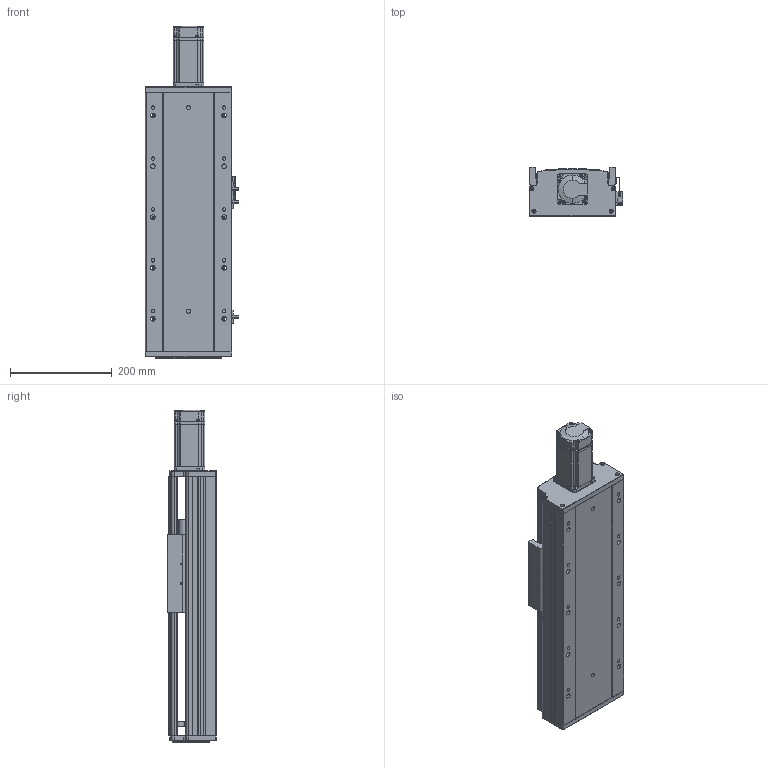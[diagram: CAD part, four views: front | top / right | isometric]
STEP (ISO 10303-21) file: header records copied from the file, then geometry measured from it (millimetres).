
FILE_DESCRIPTION (( 'STEP AP203' ), '1' );
FILE_NAME ('RY170-L2020-300-MK.SLDASM_200.step', '2021-02-20T03:50:22', ( '盈信电脑' ), ( '东莞市道滘镇水果街19号' ), 'SwSTEP 2.0', 'SolidWorks 2012', '' );
FILE_SCHEMA (( 'CONFIG_CONTROL_DESIGN' ));
Products named in the file (12): RY170-L2020-300-MK.SLDASM_200; RY170ヶ醱裔啣; 滅袉蝶18-10; RY170外置感应片(200共用）; 滅袉蝶18-28; 侂狟400W侜督萇儂; RY170綴裔啣; 15; 覜茼ん672; RY170臏賑輸20佪裝蹟譫; RY170-300倰第裔啣-MK_200; RY170-300倰第菁釱-MK_200
Assembly tree (13 placements, depth 3):
  RY170-L2020-300-MK.SLDASM_200
    RY170-300倰第菁釱-MK_200
    RY170-300倰第裔啣-MK_200
    RY170臏賑輸20佪裝蹟譫
    侂狟400W侜督萇儂
      15
    RY170綴裔啣
    覜茼ん672  x3
    RY170外置感应片(200共用）
    RY170ヶ醱裔啣
    滅袉蝶18-28
    滅袉蝶18-10
Bounding box: 183.7 x 97 x 652.5 mm (x, y, z)
Volume: 3373679.6 mm3; surface area: 991401.3 mm2
Topology: 12 solids, 12 shells, 2042 faces, 5792 edges, 3766 vertices
Faces by surface type: plane 1166, cylinder 712, cone 135, bspline 29
Entity records: 64037 total; most frequent: CARTESIAN_POINT 13863, ORIENTED_EDGE 10452, DIRECTION 9937, EDGE_CURVE 5226, VECTOR 3453, LINE 3453, VERTEX_POINT 3446, AXIS2_PLACEMENT_3D 3242
